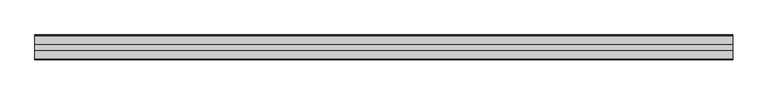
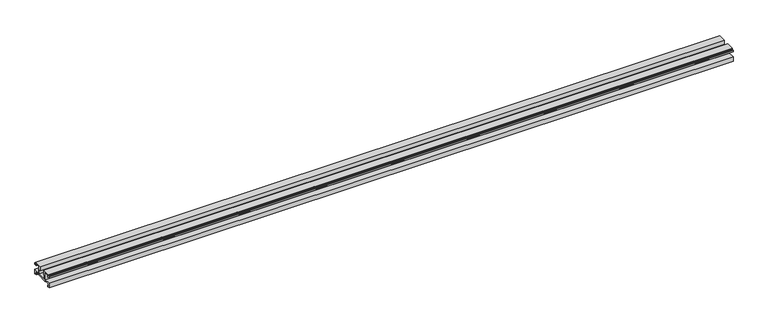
"""IFC4 building model written with IfcOpenShell, lengths in millimetres: proxy geometry, Weiku - Montante - Acoplamento vidro : Weiku - Montante - Acoplamento vidro."""

from ifc_helpers import new_model, si_unit, frame, origin, place, context, project, spatial, polyline, outline, extrude, source, transform, mapped, element, save


def generic_models_7eea9814(model_context):
    return source(origin(), model_context, "Body", "SweptSolid", [
        extrude(outline(polyline([(-35.405, 5.1494), (-35.405, 6.8004), (-45.741, 6.8004), (-45.741, 2.6094), (-43.8784, 2.6094), (-43.8784, 0.0), (-47.9014508, 0.0), (-47.9014508, 8.79), (-34.946, 8.79), (-34.946, 23.3104), (-43.5397, 23.3104), (-43.5397, 19.204), (-47.9, 19.204), (-47.9, 22.8024), (-46.9264, 22.8024), (-46.9264, 20.3894), (-44.725, 20.3894), (-44.725, 23.9454), (-45.5264504, 23.9454), (-45.5264504, 25.3), (-30.4164, 25.3), (-30.4164, 16.283), (-32.4484, 16.283), (-32.4484, 8.8), (-15.4516, 8.8), (-15.4516, 16.283), (-17.4836, 16.283), (-17.4836, 25.3), (-2.3735496, 25.3), (-2.3735496, 23.9454), (-3.175, 23.9454), (-3.175, 20.3894), (-0.9736, 20.3894), (-0.9736, 22.8024), (0.0, 22.8024), (0.0, 19.204), (-4.3603, 19.204), (-4.3603, 23.3104), (-12.954, 23.3104), (-12.954, 8.79), (0.0014508, 8.79), (0.0014508, 0.0), (-4.0216, 0.0), (-4.0216, 2.6094), (-2.159, 2.6094), (-2.159, 6.8004), (-12.495, 6.8004), (-12.495, 5.1494), (-35.405, 5.1494)])), frame((-669.1833333, 0.0, 0.0), z_axis=(1.0, 0.0, 0.0), x_axis=(0.0, 1.0, 0.0)), (0.0, 0.0, 1.0), 1338.3666667),
    ])


if __name__ == "__main__":
    model = new_model("IFC4")
    model_context = context("Model", 3, world=origin())
    ifc_project = project(units=[si_unit("LENGTHUNIT", "METRE", prefix="MILLI")], contexts=[model_context])
    site = spatial("IfcSite", under=ifc_project)
    building = spatial("IfcBuilding", under=site)
    placement = place(None, origin())
    generic_models_shape = generic_models_7eea9814(model_context)
    element("IfcBuildingElementProxy", 1, Name="Weiku - Montante - Acoplamento vidro : Weiku - Montante - Acoplamento vidro", ObjectType="Weiku - Montante - Acoplamento vidro : Weiku - Montante - Acoplamento vidro", at=placement, inside=building, context=model_context, shape_type="MappedRepresentation", body=[
        mapped(generic_models_shape, transform((0.0, 0.0, 0.0), x_axis=(1.0, 0.0, 0.0), y_axis=(0.0, 1.0, 0.0), z_axis=(0.0, 0.0, 1.0))),
    ])
    save(model, "model.ifc")
